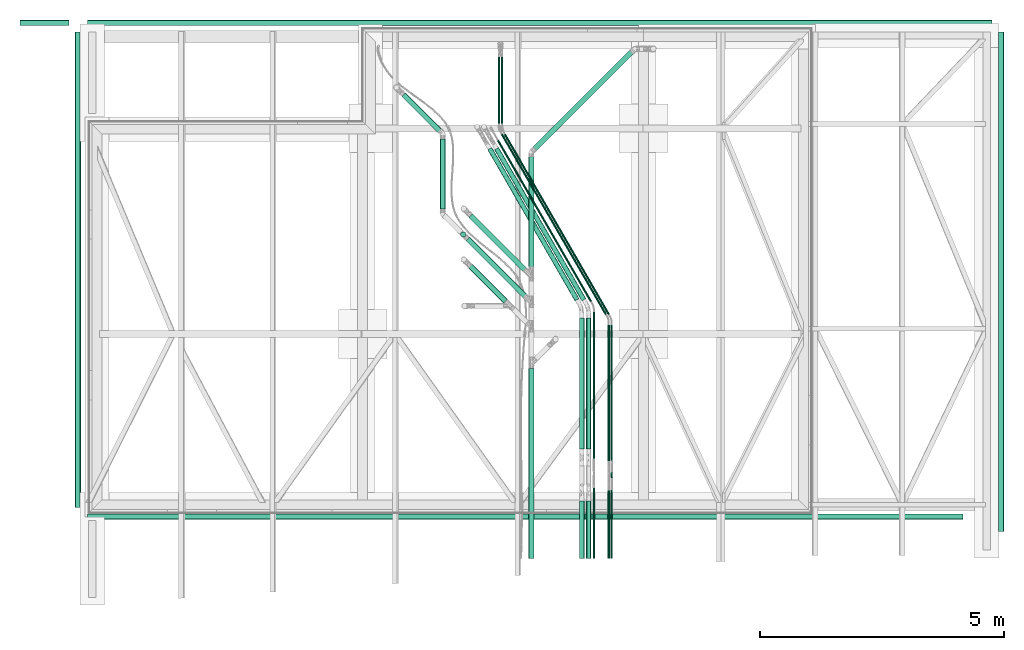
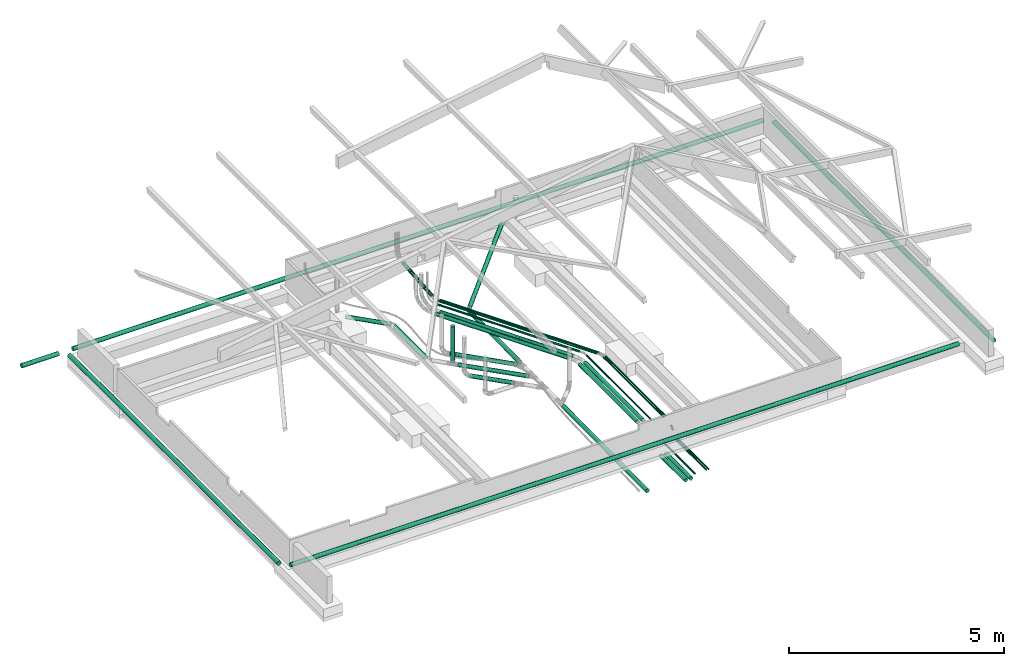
# One storey, part 5 of 18: 18 cable carrier segments, 14 pipe segments.
"""IFC4 building model written with IfcOpenShell, lengths in centimetres."""

from ifc_helpers import new_model, entity, si_unit, converted_unit, derived_unit, direction, frame, origin, place, context, subcontext, project, spatial, arc, indexed_curve, outline, extrude, type_object, element, save


model = new_model("IFC4")

# Units and contexts
model_context = context("Model", 3, precision=0.001, world=origin(), true_north=direction((6.123233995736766e-17, 1.0)))
body_context = subcontext(model_context, "Body", "Model", "MODEL_VIEW")
ifc_project = project(units=[si_unit("LENGTHUNIT", "METRE", prefix="CENTI"), si_unit("AREAUNIT", "SQUARE_METRE"), converted_unit("PLANEANGLEUNIT", "DEGREE", entity("IfcPlaneAngleMeasure", 0.017453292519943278), si_unit("PLANEANGLEUNIT", "RADIAN"), dimensions=[0, 0, 0, 0, 0, 0, 0]), si_unit("VOLUMEUNIT", "CUBIC_METRE"), derived_unit("THERMALTRANSMITTANCEUNIT", [(si_unit("MASSUNIT", "GRAM", prefix="KILO"), 1), (si_unit("THERMODYNAMICTEMPERATUREUNIT", "KELVIN"), -1), (si_unit("TIMEUNIT", "SECOND"), -3)])], contexts=[model_context])

# Site, building, storey
site_placement = place(None, frame((-0.003347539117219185, 0.0, 0.0)))
site = spatial("IfcSite", under=ifc_project, at=site_placement, Name="Default", CompositionType="ELEMENT")
building_placement = place(site_placement, origin())
building = spatial("IfcBuilding", under=site, at=building_placement, CompositionType="ELEMENT")
storey_placement = place(building_placement, frame((0.0, 0.0, -30.0)))
storey = spatial("IfcBuildingStorey", under=building, at=storey_placement, Name="Fondation B.O.", CompositionType="ELEMENT", Elevation=-30.0)

# Pipe segments
pipe_segment_type_1 = type_object("IfcPipeSegmentType", Name="Canalisation:Drain enrobé", PredefinedType="NOTDEFINED")
pipe_segment_1_placement = place(storey_placement, origin())
element("IfcPipeSegment", 1, at=pipe_segment_1_placement, inside=storey, type_object=pipe_segment_type_1, Name="Canalisation:Drain enrobé", ObjectType="Canalisation:Drain enrobé", PredefinedType="NOTDEFINED", context=body_context, shape_type="SweptSolid", body=[
    extrude(outline(indexed_curve([(5.715, -6.767919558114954e-15), (4.0411152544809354, 4.0411152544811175), (0.0, 5.715), (-4.0411152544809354, 4.041115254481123), (-5.715, 1.3535839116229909e-14), (-4.0411152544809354, -4.041115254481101), (0.0, -5.715), (4.0411152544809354, -4.041115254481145)], segments=[arc(1, 2, 3), arc(3, 4, 5), arc(5, 6, 7), arc(7, 8, 1)], self_intersect=False)), frame((-6817.586652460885, -2668.3758849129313, 11.499999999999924), z_axis=(0.0, 1.0, 0.0), x_axis=(-1.0, 0.0, 0.0)), (0.0, 0.0, 1.0), 975.0000000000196),
])
pipe_segment_2_placement = place(storey_placement, origin())
element("IfcPipeSegment", 2, at=pipe_segment_2_placement, inside=storey, type_object=pipe_segment_type_1, Name="Canalisation:Drain enrobé", ObjectType="Canalisation:Drain enrobé", PredefinedType="NOTDEFINED", context=body_context, shape_type="SweptSolid", body=[
    extrude(outline(indexed_curve([(5.715, -6.767919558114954e-15), (4.0411152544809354, 4.041115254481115), (0.0, 5.714999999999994), (-4.0411152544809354, 4.041115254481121), (-5.715, 1.3535839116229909e-14), (-4.0411152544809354, -4.041115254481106), (0.0, -5.715000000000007), (4.0411152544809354, -4.041115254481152)], segments=[arc(1, 2, 3), arc(3, 4, 5), arc(5, 6, 7), arc(7, 8, 1)], self_intersect=False)), frame((-6798.586652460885, -2687.375884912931, 11.50000000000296), z_axis=(1.0, 0.0, 0.0), x_axis=(0.0, -1.0, 0.0)), (0.0, 0.0, 1.0), 1796.5000000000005),
])
pipe_segment_3_placement = place(storey_placement, origin())
element("IfcPipeSegment", 3, at=pipe_segment_3_placement, inside=storey, type_object=pipe_segment_type_1, Name="Canalisation:Drain enrobé", ObjectType="Canalisation:Drain enrobé", PredefinedType="NOTDEFINED", context=body_context, shape_type="SweptSolid", body=[
    extrude(outline(indexed_curve([(5.715, -6.767919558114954e-15), (4.0411152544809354, 4.041115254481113), (0.0, 5.714999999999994), (-4.0411152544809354, 4.0411152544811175), (-5.715, 1.0151879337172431e-14), (-4.0411152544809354, -4.041115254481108), (0.0, -5.715000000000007), (4.0411152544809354, -4.041115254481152)], segments=[arc(1, 2, 3), arc(3, 4, 5), arc(5, 6, 7), arc(7, 8, 1)], self_intersect=False)), frame((-4924.086652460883, -2717.8758849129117, 11.50000000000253), z_axis=(0.0, 1.0, 0.0), x_axis=(-1.0, 0.0, 0.0)), (0.0, 0.0, 1.0), 1024.5),
])
pipe_segment_4_placement = place(storey_placement, origin())
element("IfcPipeSegment", 4, at=pipe_segment_4_placement, inside=storey, type_object=pipe_segment_type_1, Name="Canalisation:Drain enrobé", ObjectType="Canalisation:Drain enrobé", PredefinedType="NOTDEFINED", context=body_context, shape_type="SweptSolid", body=[
    extrude(outline(indexed_curve([(5.715, -3.383959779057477e-15), (4.041115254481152, 4.0411152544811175), (0.0, 5.714999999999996), (-4.041115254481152, 4.041115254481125), (-5.715, 1.6919798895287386e-14), (-4.041115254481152, -4.041115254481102), (0.0, -5.715000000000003), (4.041115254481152, -4.041115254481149)], segments=[arc(1, 2, 3), arc(3, 4, 5), arc(5, 6, 7), arc(7, 8, 1)], self_intersect=False)), frame((-6798.586652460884, -1674.3758849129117, 11.499999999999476), z_axis=(1.0, 0.0, 0.0), x_axis=(0.0, -1.0, 0.0)), (0.0, 0.0, 1.0), 1855.5000000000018),
])
pipe_segment_5_placement = place(storey_placement, origin())
element("IfcPipeSegment", 5, at=pipe_segment_5_placement, inside=storey, type_object=pipe_segment_type_1, Name="Canalisation:Drain enrobé", ObjectType="Canalisation:Drain enrobé", PredefinedType="NOTDEFINED", context=body_context, shape_type="SweptSolid", body=[
    extrude(outline(indexed_curve([(5.715, 6.767919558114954e-15), (4.041115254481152, 4.041115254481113), (0.0, 5.7149999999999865), (-4.041115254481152, 4.0411152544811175), (-5.715, 2.368771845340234e-14), (-4.041115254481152, -4.041115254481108), (0.0, -5.715000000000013), (4.041115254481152, -4.041115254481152)], segments=[arc(1, 2, 3), arc(3, 4, 5), arc(5, 6, 7), arc(7, 8, 1)], self_intersect=False)), frame((-6936.586652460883, -1674.3758849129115, 11.499999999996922), z_axis=(1.0, 0.0, 0.0), x_axis=(0.0, 1.0, 0.0)), (0.0, 0.0, 1.0), 99.99999999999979),
])
pipe_segment_type_2 = type_object("IfcPipeSegmentType", Name="Canalisation:Valsir PP3", PredefinedType="NOTDEFINED")
pipe_segment_6_placement = place(storey_placement, origin())
element("IfcPipeSegment", 6, at=pipe_segment_6_placement, inside=storey, type_object=pipe_segment_type_2, Name="Canalisation:Valsir PP3", ObjectType="Canalisation:Valsir PP3", PredefinedType="NOTDEFINED", context=body_context, shape_type="SweptSolid", body=[
    extrude(outline(indexed_curve([(5.500000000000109, 4.331468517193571e-13), (3.8890872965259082, 3.8890872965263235), (0.0, 5.500000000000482), (-3.8890872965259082, 3.8890872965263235), (-5.500000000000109, 4.331468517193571e-13), (-3.8890872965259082, -3.8890872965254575), (0.0, -5.499999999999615), (3.8890872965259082, -3.8890872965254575)], segments=[arc(1, 2, 3), arc(3, 4, 5), arc(5, 6, 7), arc(7, 8, 1)], self_intersect=False)), frame((-6027.427492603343, -2108.547729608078, -31.82662814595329), z_axis=(6.855352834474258e-05, 0.0, 0.9999999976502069), x_axis=(-0.9999999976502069, 0.0, 6.855352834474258e-05)), (0.0, 0.0, 1.0), 101.82662838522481),
])
pipe_segment_7_placement = place(storey_placement, origin())
element("IfcPipeSegment", 7, at=pipe_segment_7_placement, inside=storey, type_object=pipe_segment_type_2, Name="Canalisation:Valsir PP3", ObjectType="Canalisation:Valsir PP3", PredefinedType="NOTDEFINED", context=body_context, shape_type="SweptSolid", body=[
    extrude(outline(indexed_curve([(5.499999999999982, -1.2717406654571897e-13), (3.8890872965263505, 3.8890872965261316), (-3.084388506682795e-13, 5.499999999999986), (-3.889087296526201, 3.8890872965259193), (-5.499999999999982, 1.0039039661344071e-13), (-3.8890872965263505, -3.8890872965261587), (4.615630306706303e-13, -5.500000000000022), (3.889087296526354, -3.889087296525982)], segments=[arc(1, 2, 3), arc(3, 4, 5), arc(5, 6, 7), arc(7, 8, 1)], self_intersect=False)), frame((-5880.576963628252, -1932.789626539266, -35.166907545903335), z_axis=(0.6995840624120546, 0.699584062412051, 0.1454794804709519), x_axis=(-0.7071067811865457, 0.7071067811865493, 0.0)), (0.0, 0.0, 1.0), 289.3452150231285),
])
pipe_segment_8_placement = place(storey_placement, origin())
element("IfcPipeSegment", 8, at=pipe_segment_8_placement, inside=storey, type_object=pipe_segment_type_2, Name="Canalisation:Valsir PP3", ObjectType="Canalisation:Valsir PP3", PredefinedType="NOTDEFINED", context=body_context, shape_type="SweptSolid", body=[
    extrude(outline(indexed_curve([(5.499999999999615, -1.3535162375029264e-14), (3.8890872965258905, 3.8890872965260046), (0.0, 5.499999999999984), (-3.8890872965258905, 3.8890872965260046), (-5.499999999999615, 0.0), (-3.8890872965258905, -3.8890872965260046), (0.0, -5.500000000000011), (3.8890872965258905, -3.889087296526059)], segments=[arc(1, 2, 3), arc(3, 4, 5), arc(5, 6, 7), arc(7, 8, 1)], self_intersect=False)), frame((-5887.812062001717, -2180.7279488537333, -39.07848857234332), z_axis=(0.0, 0.9999500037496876, 0.009999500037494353), x_axis=(-1.0, 0.0, 0.0)), (0.0, 0.0, 1.0), 237.1577175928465),
])
pipe_segment_9_placement = place(storey_placement, origin())
element("IfcPipeSegment", 9, at=pipe_segment_9_placement, inside=storey, type_object=pipe_segment_type_2, Name="Canalisation:Valsir PP3", ObjectType="Canalisation:Valsir PP3", PredefinedType="NOTDEFINED", context=body_context, shape_type="SweptSolid", body=[
    extrude(outline(indexed_curve([(5.499999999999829, -1.167116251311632e-14), (3.8890872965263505, 3.8890872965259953), (-1.8638215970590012e-15, 5.499999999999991), (-3.8890872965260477, 3.889087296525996), (-5.499999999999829, -1.8638215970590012e-15), (-3.8890872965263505, -3.889087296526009), (1.8638215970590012e-15, -5.500000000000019), (3.8890872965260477, -3.8890872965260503)], segments=[arc(1, 2, 3), arc(3, 4, 5), arc(5, 6, 7), arc(7, 8, 1)], self_intersect=False)), frame((-5897.287182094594, -2184.652242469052, -39.10641787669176), z_axis=(-0.707062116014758, 0.7070621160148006, 0.011239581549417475), x_axis=(-0.7071067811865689, -0.7071067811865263, 0.0)), (0.0, 0.0, 1.0), 162.4881901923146),
])
pipe_segment_10_placement = place(storey_placement, origin())
element("IfcPipeSegment", 10, at=pipe_segment_10_placement, inside=storey, type_object=pipe_segment_type_2, Name="Canalisation:Valsir PP3", ObjectType="Canalisation:Valsir PP3", PredefinedType="NOTDEFINED", context=body_context, shape_type="SweptSolid", body=[
    extrude(outline(indexed_curve([(5.5000000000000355, 1.3516011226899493e-15), (3.889087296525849, 3.88908729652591), (2.799448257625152e-13, 5.500000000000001), (-3.889087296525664, 3.8890872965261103), (-5.5000000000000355, 1.2183561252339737e-14), (-3.889087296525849, -3.8890872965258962), (-2.799448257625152e-13, -5.500000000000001), (3.889087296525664, -3.8890872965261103)], segments=[arc(1, 2, 3), arc(3, 4, 5), arc(5, 6, 7), arc(7, 8, 1)], self_intersect=False)), frame((-5897.287056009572, -2238.681447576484, -39.618775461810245), z_axis=(-0.7070891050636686, 0.7070537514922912, 0.009999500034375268), x_axis=(0.7070891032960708, 0.7071244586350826, 0.0)), (0.0, 0.0, 1.0), 171.107338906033),
])
pipe_segment_11_placement = place(storey_placement, origin())
element("IfcPipeSegment", 11, at=pipe_segment_11_placement, inside=storey, type_object=pipe_segment_type_2, Name="Canalisation:Valsir PP3", ObjectType="Canalisation:Valsir PP3", PredefinedType="NOTDEFINED", context=body_context, shape_type="SweptSolid", body=[
    extrude(outline(indexed_curve([(5.499999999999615, -1.3535678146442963e-14), (3.8890872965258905, 3.8890872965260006), (0.0, 5.499999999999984), (-3.8890872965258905, 3.8890872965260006), (-5.499999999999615, 1.3535678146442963e-14), (-3.8890872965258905, -3.8890872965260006), (0.0, -5.500000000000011), (3.8890872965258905, -3.889087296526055)], segments=[arc(1, 2, 3), arc(3, 4, 5), arc(5, 6, 7), arc(7, 8, 1)], self_intersect=False)), frame((-6069.454721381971, -2056.180513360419, -37.13358102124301), z_axis=(0.0, 0.9999881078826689, 0.004876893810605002), x_axis=(1.0, 0.0, 0.0)), (0.0, 0.0, 1.0), 143.95603519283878),
])
pipe_segment_12_placement = place(storey_placement, origin())
element("IfcPipeSegment", 12, at=pipe_segment_12_placement, inside=storey, type_object=pipe_segment_type_2, Name="Canalisation:Valsir PP3", ObjectType="Canalisation:Valsir PP3", PredefinedType="NOTDEFINED", context=body_context, shape_type="SweptSolid", body=[
    extrude(outline(indexed_curve([(5.500000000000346, -2.7426737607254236e-14), (3.889087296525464, 3.889087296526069), (-1.8311055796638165e-13, 5.500000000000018), (-3.889087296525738, 3.8890872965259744), (-5.500000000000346, 2.7426737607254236e-14), (-3.889087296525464, -3.889087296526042), (1.8311055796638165e-13, -5.499999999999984), (3.8890872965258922, -3.889087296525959)], segments=[arc(1, 2, 3), arc(3, 4, 5), arc(5, 6, 7), arc(7, 8, 1)], self_intersect=False)), frame((-6071.948743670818, -1899.3902908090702, -36.34581508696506), z_axis=(-0.7070590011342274, 0.7070583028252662, 0.011667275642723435), x_axis=(-0.707106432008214, -0.7071071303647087, 0.0)), (0.0, 0.0, 1.0), 110.29473793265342),
])
pipe_segment_13_placement = place(storey_placement, origin())
element("IfcPipeSegment", 13, at=pipe_segment_13_placement, inside=storey, type_object=pipe_segment_type_2, Name="Canalisation:Valsir PP3", ObjectType="Canalisation:Valsir PP3", PredefinedType="NOTDEFINED", context=body_context, shape_type="SweptSolid", body=[
    extrude(outline(indexed_curve([(5.4999999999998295, -2.785022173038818e-14), (3.8890872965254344, 3.8890872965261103), (-3.0550627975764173e-13, 5.50000000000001), (-3.8890872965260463, 3.889087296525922), (-5.4999999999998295, 2.785022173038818e-14), (-3.8890872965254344, -3.889087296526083), (3.0550627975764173e-13, -5.499999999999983), (3.8890872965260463, -3.8890872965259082)], segments=[arc(1, 2, 3), arc(3, 4, 5), arc(5, 6, 7), arc(7, 8, 1)], self_intersect=False)), frame((-6017.000779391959, -2169.3603510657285, -38.42806859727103), z_axis=(0.7070714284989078, -0.7070714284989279, -0.009999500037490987), x_axis=(0.7071067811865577, 0.7071067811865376, 0.0)), (0.0, 0.0, 1.0), 107.78388609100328),
])
pipe_segment_14_placement = place(storey_placement, origin())
element("IfcPipeSegment", 14, at=pipe_segment_14_placement, inside=storey, type_object=pipe_segment_type_2, Name="Canalisation:Valsir PP3", ObjectType="Canalisation:Valsir PP3", PredefinedType="NOTDEFINED", context=body_context, shape_type="SweptSolid", body=[
    extrude(outline(indexed_curve([(5.499999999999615, 1.552679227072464e-15), (3.8890872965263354, 3.889087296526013), (2.590386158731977e-15, 5.500000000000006), (-3.889087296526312, 3.889087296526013), (-5.499999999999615, 1.1982482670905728e-14), (-3.8890872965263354, -3.8890872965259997), (-2.590386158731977e-15, -5.500000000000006), (3.889087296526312, -3.88908729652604)], segments=[arc(1, 2, 3), arc(3, 4, 5), arc(5, 6, 7), arc(7, 8, 1)], self_intersect=False)), frame((-5887.812062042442, -2772.875884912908, -44.999977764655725), z_axis=(1.4595795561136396e-08, 0.9999499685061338, 0.010003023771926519), x_axis=(-1.0, 1.4596525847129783e-08, 0.0)), (0.0, 0.0, 1.0), 389.8356681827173),
])

# Cable carrier segments
cable_carrier_segment_type = type_object("IfcCableCarrierSegmentType", Name="Conduit sans raccords:TPC", PredefinedType="CONDUITSEGMENT")
cable_carrier_segment_1_placement = place(storey_placement, origin())
element("IfcCableCarrierSegment", 15, at=cable_carrier_segment_1_placement, inside=storey, type_object=cable_carrier_segment_type, Name="Conduit sans raccords:TPC", ObjectType="Conduit sans raccords:TPC", PredefinedType="CONDUITSEGMENT", context=body_context, shape_type="SweptSolid", body=[
    extrude(outline(indexed_curve([(2.2100000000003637, 2.0220195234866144e-14), (1.5627059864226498, 1.562705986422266), (0.0, 2.2100000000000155), (-1.5627059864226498, 1.5627059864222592), (-2.2100000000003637, 1.3480130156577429e-14), (-1.5627059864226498, -1.562705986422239), (0.0, -2.210000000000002), (1.5627059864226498, -1.562705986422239)], segments=[arc(1, 2, 3), arc(3, 4, 5), arc(5, 6, 7), arc(7, 8, 1)], self_intersect=False)), frame((-5948.09944586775, -1881.237898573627, -9.940852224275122), z_axis=(0.0, 0.995884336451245, 0.09063326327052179), x_axis=(1.0, 0.0, 0.0)), (0.0, 0.0, 1.0), 138.3060079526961),
])
cable_carrier_segment_2_placement = place(storey_placement, origin())
element("IfcCableCarrierSegment", 16, at=cable_carrier_segment_2_placement, inside=storey, type_object=cable_carrier_segment_type, Name="Conduit sans raccords:TPC", ObjectType="Conduit sans raccords:TPC", PredefinedType="CONDUITSEGMENT", context=body_context, shape_type="SweptSolid", body=[
    extrude(outline(indexed_curve([(2.2099999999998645, 0.0), (1.56270598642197, 1.5627059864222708), (0.0, 2.209999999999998), (-1.5627059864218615, 1.5627059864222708), (-2.2099999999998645, 6.767919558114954e-15), (-1.5627059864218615, -1.562705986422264), (0.0, -2.209999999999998), (1.56270598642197, -1.5627059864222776)], segments=[arc(1, 2, 3), arc(3, 4, 5), arc(5, 6, 7), arc(7, 8, 1)], self_intersect=False)), frame((-5942.256404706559, -1902.9963290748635, -11.0), z_axis=(0.5000000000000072, -0.8660254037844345, 0.0), x_axis=(-0.8660254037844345, -0.5000000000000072, 0.0)), (0.0, 0.0, 1.0), 426.7158746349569),
])
cable_carrier_segment_3_placement = place(storey_placement, origin())
element("IfcCableCarrierSegment", 17, at=cable_carrier_segment_3_placement, inside=storey, type_object=cable_carrier_segment_type, Name="Conduit sans raccords:TPC", ObjectType="Conduit sans raccords:TPC", PredefinedType="CONDUITSEGMENT", context=body_context, shape_type="SweptSolid", body=[
    extrude(outline(indexed_curve([(2.2100000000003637, 2.0303758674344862e-14), (1.5627059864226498, 1.562705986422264), (0.0, 2.209999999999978), (-1.5627059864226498, 1.562705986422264), (-2.2100000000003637, 2.7071678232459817e-14), (-1.5627059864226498, -1.5627059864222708), (0.0, -2.2100000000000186), (1.5627059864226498, -1.5627059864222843)], segments=[arc(1, 2, 3), arc(3, 4, 5), arc(5, 6, 7), arc(7, 8, 1)], self_intersect=False)), frame((-5723.099445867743, -2572.2010795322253, -11.0), z_axis=(0.0, 1.0, 0.0), x_axis=(-1.0, 0.0, 0.0)), (0.0, 0.0, 1.0), 278.01571987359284),
])
cable_carrier_segment_4_placement = place(storey_placement, origin())
element("IfcCableCarrierSegment", 18, at=cable_carrier_segment_4_placement, inside=storey, type_object=cable_carrier_segment_type, Name="Conduit sans raccords:TPC", ObjectType="Conduit sans raccords:TPC", PredefinedType="CONDUITSEGMENT", context=body_context, shape_type="SweptSolid", body=[
    extrude(outline(indexed_curve([(2.2100000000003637, 0.0), (1.5627059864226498, 1.562705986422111), (0.0, 2.209999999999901), (-1.5627059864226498, 1.5627059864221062), (-2.2100000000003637, 0.0), (-1.5627059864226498, -1.5627059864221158), (0.0, -2.209999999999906), (1.5627059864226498, -1.5627059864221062)], segments=[arc(1, 2, 3), arc(3, 4, 5), arc(5, 6, 7), arc(7, 8, 1)], self_intersect=False)), frame((-5723.099445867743, -2606.5933107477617, -30.40597404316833), z_axis=(0.0, 0.7071067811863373, 0.7071067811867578), x_axis=(-1.0, 0.0, 0.0)), (0.0, 0.0, 1.0), 12.457934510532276),
])
cable_carrier_segment_5_placement = place(storey_placement, origin())
element("IfcCableCarrierSegment", 19, at=cable_carrier_segment_5_placement, inside=storey, type_object=cable_carrier_segment_type, Name="Conduit sans raccords:TPC", ObjectType="Conduit sans raccords:TPC", PredefinedType="CONDUITSEGMENT", context=body_context, shape_type="SweptSolid", body=[
    extrude(outline(indexed_curve([(2.2100000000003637, -1.3535839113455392e-14), (1.5627059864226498, 1.5627059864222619), (0.0, 2.2099999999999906), (-1.5627059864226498, 1.5627059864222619), (-2.2100000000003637, 0.0), (-1.5627059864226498, -1.5627059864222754), (0.0, -2.2100000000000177), (1.5627059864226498, -1.5627059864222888)], segments=[arc(1, 2, 3), arc(3, 4, 5), arc(5, 6, 7), arc(7, 8, 1)], self_intersect=False)), frame((-5723.099445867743, -2772.875884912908, -40.99990018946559), z_axis=(0.0, 1.0, -2.024725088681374e-05), x_axis=(-1.0, 0.0, 0.0)), (0.0, 0.0, 1.0), 140.69896392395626),
])
cable_carrier_segment_6_placement = place(storey_placement, origin())
element("IfcCableCarrierSegment", 20, at=cable_carrier_segment_6_placement, inside=storey, type_object=cable_carrier_segment_type, Name="Conduit sans raccords:TPC", ObjectType="Conduit sans raccords:TPC", PredefinedType="CONDUITSEGMENT", context=body_context, shape_type="SweptSolid", body=[
    extrude(outline(indexed_curve([(2.2100000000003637, 2.0220195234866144e-14), (1.5627059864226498, 1.562705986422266), (0.0, 2.2100000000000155), (-1.5627059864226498, 1.5627059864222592), (-2.2100000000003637, 1.3480130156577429e-14), (-1.5627059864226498, -1.562705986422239), (0.0, -2.210000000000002), (1.5627059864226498, -1.562705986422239)], segments=[arc(1, 2, 3), arc(3, 4, 5), arc(5, 6, 7), arc(7, 8, 1)], self_intersect=False)), frame((-5954.09944586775, -1881.237898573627, -9.940852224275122), z_axis=(0.0, 0.995884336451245, 0.09063326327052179), x_axis=(1.0, 0.0, 0.0)), (0.0, 0.0, 1.0), 138.3060079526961),
])
cable_carrier_segment_7_placement = place(storey_placement, origin())
element("IfcCableCarrierSegment", 21, at=cable_carrier_segment_7_placement, inside=storey, type_object=cable_carrier_segment_type, Name="Conduit sans raccords:TPC", ObjectType="Conduit sans raccords:TPC", PredefinedType="CONDUITSEGMENT", context=body_context, shape_type="SweptSolid", body=[
    extrude(outline(indexed_curve([(2.2099999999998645, 0.0), (1.56270598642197, 1.5627059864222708), (0.0, 2.209999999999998), (-1.5627059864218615, 1.5627059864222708), (-2.2099999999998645, 6.767919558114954e-15), (-1.5627059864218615, -1.562705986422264), (0.0, -2.209999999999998), (1.56270598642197, -1.5627059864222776)], segments=[arc(1, 2, 3), arc(3, 4, 5), arc(5, 6, 7), arc(7, 8, 1)], self_intersect=False)), frame((-5948.25640470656, -1902.9963290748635, -11.0), z_axis=(0.5000000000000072, -0.8660254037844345, 0.0), x_axis=(-0.8660254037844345, -0.5000000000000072, 0.0)), (0.0, 0.0, 1.0), 426.7158746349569),
])
cable_carrier_segment_8_placement = place(storey_placement, origin())
element("IfcCableCarrierSegment", 22, at=cable_carrier_segment_8_placement, inside=storey, type_object=cable_carrier_segment_type, Name="Conduit sans raccords:TPC", ObjectType="Conduit sans raccords:TPC", PredefinedType="CONDUITSEGMENT", context=body_context, shape_type="SweptSolid", body=[
    extrude(outline(indexed_curve([(2.2100000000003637, 2.0303758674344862e-14), (1.5627059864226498, 1.562705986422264), (0.0, 2.209999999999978), (-1.5627059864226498, 1.562705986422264), (-2.2100000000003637, 2.7071678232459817e-14), (-1.5627059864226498, -1.5627059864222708), (0.0, -2.2100000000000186), (1.5627059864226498, -1.5627059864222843)], segments=[arc(1, 2, 3), arc(3, 4, 5), arc(5, 6, 7), arc(7, 8, 1)], self_intersect=False)), frame((-5729.099445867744, -2573.201079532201, -11.0), z_axis=(0.0, 1.0, 0.0), x_axis=(-1.0, 0.0, 0.0)), (0.0, 0.0, 1.0), 279.01571987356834),
])
cable_carrier_segment_9_placement = place(storey_placement, origin())
element("IfcCableCarrierSegment", 23, at=cable_carrier_segment_9_placement, inside=storey, type_object=cable_carrier_segment_type, Name="Conduit sans raccords:TPC", ObjectType="Conduit sans raccords:TPC", PredefinedType="CONDUITSEGMENT", context=body_context, shape_type="SweptSolid", body=[
    extrude(outline(indexed_curve([(2.2100000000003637, -1.3535839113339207e-14), (1.5627059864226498, 1.5627059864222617), (0.0, 2.209999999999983), (-1.5627059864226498, 1.5627059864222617), (-2.2100000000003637, 0.0), (-1.5627059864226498, -1.5627059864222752), (0.0, -2.21000000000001), (1.5627059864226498, -1.5627059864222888)], segments=[arc(1, 2, 3), arc(3, 4, 5), arc(5, 6, 7), arc(7, 8, 1)], self_intersect=False)), frame((-5729.099445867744, -2772.875884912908, -40.99989812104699), z_axis=(0.0, 1.0, -2.066684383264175e-05), x_axis=(-1.0, 0.0, 0.0)), (0.0, 0.0, 1.0), 139.69891564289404),
])
cable_carrier_segment_10_placement = place(storey_placement, origin())
element("IfcCableCarrierSegment", 24, at=cable_carrier_segment_10_placement, inside=storey, type_object=cable_carrier_segment_type, Name="Conduit sans raccords:TPC", ObjectType="Conduit sans raccords:TPC", PredefinedType="CONDUITSEGMENT", context=body_context, shape_type="SweptSolid", body=[
    extrude(outline(indexed_curve([(2.2099999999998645, -4.907648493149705e-17), (1.5627059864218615, 1.5627059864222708), (4.907648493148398e-17, 2.209999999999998), (-1.5627059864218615, 1.5627059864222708), (-2.2099999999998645, 6.816996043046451e-15), (-1.5627059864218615, -1.562705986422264), (-4.907648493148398e-17, -2.209999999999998), (1.5627059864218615, -1.5627059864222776)], segments=[arc(1, 2, 3), arc(3, 4, 5), arc(5, 6, 7), arc(7, 8, 1)], self_intersect=False)), frame((-5956.307049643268, -1915.5094836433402, -11.0), z_axis=(0.5000000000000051, -0.8660254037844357, 0.0), x_axis=(-0.8660254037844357, -0.5000000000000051, 0.0)), (0.0, 0.0, 1.0), 381.8459569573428),
])
cable_carrier_segment_11_placement = place(storey_placement, origin())
element("IfcCableCarrierSegment", 25, at=cable_carrier_segment_11_placement, inside=storey, type_object=cable_carrier_segment_type, Name="Conduit sans raccords:TPC", ObjectType="Conduit sans raccords:TPC", PredefinedType="CONDUITSEGMENT", context=body_context, shape_type="SweptSolid", body=[
    extrude(outline(indexed_curve([(2.2100000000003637, 2.7071678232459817e-14), (1.5627059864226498, 1.5627059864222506), (0.0, 2.2099999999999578), (-1.5627059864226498, 1.5627059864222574), (-2.2100000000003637, 3.383959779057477e-14), (-1.5627059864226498, -1.5627059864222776), (0.0, -2.210000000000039), (1.5627059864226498, -1.5627059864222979)], segments=[arc(1, 2, 3), arc(3, 4, 5), arc(5, 6, 7), arc(7, 8, 1)], self_intersect=False)), frame((-5759.585049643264, -2568.2557254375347, -11.0), z_axis=(0.0, 1.0, 0.0), x_axis=(-1.0, 0.0, 0.0)), (0.0, 0.0, 1.0), 300.415699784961),
])
cable_carrier_segment_12_placement = place(storey_placement, origin())
element("IfcCableCarrierSegment", 26, at=cable_carrier_segment_12_placement, inside=storey, type_object=cable_carrier_segment_type, Name="Conduit sans raccords:TPC", ObjectType="Conduit sans raccords:TPC", PredefinedType="CONDUITSEGMENT", context=body_context, shape_type="SweptSolid", body=[
    extrude(outline(indexed_curve([(2.2099999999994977, 3.3568881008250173e-12), (1.5627059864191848, 1.5627059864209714), (0.0, 2.209999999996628), (-1.562705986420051, 1.5627059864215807), (-2.21000000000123, 3.3704239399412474e-12), (-1.5627059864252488, -1.5627059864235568), (0.0, -2.210000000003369), (1.5627059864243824, -1.562705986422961)], segments=[arc(1, 2, 3), arc(3, 4, 5), arc(5, 6, 7), arc(7, 8, 1)], self_intersect=False)), frame((-5759.585049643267, -2772.875884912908, -41.0), z_axis=(0.0, 1.0, 0.0), x_axis=(-1.0, 0.0, 0.0)), (0.0, 0.0, 1.0), 144.64764513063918),
])
cable_carrier_segment_13_placement = place(storey_placement, origin())
element("IfcCableCarrierSegment", 27, at=cable_carrier_segment_13_placement, inside=storey, type_object=cable_carrier_segment_type, Name="Conduit sans raccords:TPC", ObjectType="Conduit sans raccords:TPC", PredefinedType="CONDUITSEGMENT", context=body_context, shape_type="SweptSolid", body=[
    extrude(outline(indexed_curve([(5.080000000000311, -6.767919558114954e-15), (3.592102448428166, 3.592102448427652), (0.0, 5.079999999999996), (-3.592102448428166, 3.5921024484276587), (-5.080000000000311, 6.767919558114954e-15), (-3.592102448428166, -3.592102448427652), (0.0, -5.080000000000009), (3.5921024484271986, -3.592102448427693)], segments=[arc(1, 2, 3), arc(3, 4, 5), arc(5, 6, 7), arc(7, 8, 1)], self_intersect=False)), frame((-5780.158025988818, -2242.443307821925, -21.0), z_axis=(-0.5000000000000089, 0.8660254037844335, 0.0), x_axis=(-0.8660254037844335, -0.5000000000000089, 0.0)), (0.0, 0.0, 1.0), 357.8942333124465),
])
cable_carrier_segment_14_placement = place(storey_placement, origin())
element("IfcCableCarrierSegment", 28, at=cable_carrier_segment_14_placement, inside=storey, type_object=cable_carrier_segment_type, Name="Conduit sans raccords:TPC", ObjectType="Conduit sans raccords:TPC", PredefinedType="CONDUITSEGMENT", context=body_context, shape_type="SweptSolid", body=[
    extrude(outline(indexed_curve([(5.079999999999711, 0.0), (3.5921024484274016, 3.592102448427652), (0.0, 5.0799999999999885), (-3.5921024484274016, 3.5921024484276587), (-5.079999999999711, 1.3535839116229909e-14), (-3.5921024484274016, -3.592102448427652), (0.0, -5.080000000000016), (3.5921024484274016, -3.592102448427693)], segments=[arc(1, 2, 3), arc(3, 4, 5), arc(5, 6, 7), arc(7, 8, 1)], self_intersect=False)), frame((-5770.152502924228, -2548.671913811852, -21.0), z_axis=(0.0, 1.0, 0.0), x_axis=(-1.0, 0.0, 0.0)), (0.0, 0.0, 1.0), 268.88748555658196),
])
cable_carrier_segment_15_placement = place(storey_placement, origin())
element("IfcCableCarrierSegment", 29, at=cable_carrier_segment_15_placement, inside=storey, type_object=cable_carrier_segment_type, Name="Conduit sans raccords:TPC", ObjectType="Conduit sans raccords:TPC", PredefinedType="CONDUITSEGMENT", context=body_context, shape_type="SweptSolid", body=[
    extrude(outline(indexed_curve([(5.079999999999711, 2.1115909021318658e-12), (3.5921024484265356, 3.59210244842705), (0.0, 5.0799999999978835), (-3.5921024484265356, 3.59210244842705), (-5.079999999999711, 2.1251267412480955e-12), (-3.5921024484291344, -3.592102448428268), (0.0, -5.080000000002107), (3.5921024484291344, -3.592102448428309)], segments=[arc(1, 2, 3), arc(3, 4, 5), arc(5, 6, 7), arc(7, 8, 1)], self_intersect=False)), frame((-5770.152502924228, -2772.875884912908, -51.0), z_axis=(0.0, 1.0, 0.0), x_axis=(-1.0, 0.0, 0.0)), (0.0, 0.0, 1.0), 117.71749218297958),
])
cable_carrier_segment_16_placement = place(storey_placement, origin())
element("IfcCableCarrierSegment", 30, at=cable_carrier_segment_16_placement, inside=storey, type_object=cable_carrier_segment_type, Name="Conduit sans raccords:TPC", ObjectType="Conduit sans raccords:TPC", PredefinedType="CONDUITSEGMENT", context=body_context, shape_type="SweptSolid", body=[
    extrude(outline(indexed_curve([(5.079999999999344, -6.767919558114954e-15), (3.5921024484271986, 3.592102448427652), (-9.66805780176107e-13, 5.079999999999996), (-3.592102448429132, 3.5921024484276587), (-5.0800000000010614, 6.767919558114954e-15), (-3.592102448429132, -3.592102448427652), (-9.66805780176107e-13, -5.080000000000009), (3.5921024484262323, -3.592102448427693)], segments=[arc(1, 2, 3), arc(3, 4, 5), arc(5, 6, 7), arc(7, 8, 1)], self_intersect=False)), frame((-5794.158025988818, -2242.443307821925, -21.0), z_axis=(-0.5000000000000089, 0.8660254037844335, 0.0), x_axis=(-0.8660254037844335, -0.5000000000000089, 0.0)), (0.0, 0.0, 1.0), 357.8942333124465),
])
cable_carrier_segment_17_placement = place(storey_placement, origin())
element("IfcCableCarrierSegment", 31, at=cable_carrier_segment_17_placement, inside=storey, type_object=cable_carrier_segment_type, Name="Conduit sans raccords:TPC", ObjectType="Conduit sans raccords:TPC", PredefinedType="CONDUITSEGMENT", context=body_context, shape_type="SweptSolid", body=[
    extrude(outline(indexed_curve([(5.079999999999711, 0.0), (3.5921024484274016, 3.592102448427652), (0.0, 5.0799999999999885), (-3.5921024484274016, 3.5921024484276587), (-5.079999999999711, 1.3535839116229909e-14), (-3.5921024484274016, -3.592102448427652), (0.0, -5.080000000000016), (3.5921024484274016, -3.592102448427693)], segments=[arc(1, 2, 3), arc(3, 4, 5), arc(5, 6, 7), arc(7, 8, 1)], self_intersect=False)), frame((-5784.152502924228, -2548.671913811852, -21.0), z_axis=(0.0, 1.0, 0.0), x_axis=(-1.0, 0.0, 0.0)), (0.0, 0.0, 1.0), 268.88748555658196),
])
cable_carrier_segment_18_placement = place(storey_placement, origin())
element("IfcCableCarrierSegment", 32, at=cable_carrier_segment_18_placement, inside=storey, type_object=cable_carrier_segment_type, Name="Conduit sans raccords:TPC", ObjectType="Conduit sans raccords:TPC", PredefinedType="CONDUITSEGMENT", context=body_context, shape_type="SweptSolid", body=[
    extrude(outline(indexed_curve([(5.079999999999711, 2.341700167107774e-12), (3.592102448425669, 3.5921024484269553), (0.0, 5.079999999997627), (-3.592102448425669, 3.5921024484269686), (-5.079999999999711, 2.3552360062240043e-12), (-3.5921024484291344, -3.5921024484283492), (0.0, -5.080000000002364), (3.5921024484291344, -3.5921024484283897)], segments=[arc(1, 2, 3), arc(3, 4, 5), arc(5, 6, 7), arc(7, 8, 1)], self_intersect=False)), frame((-5784.152502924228, -2772.875884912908, -50.99997905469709), z_axis=(0.0, 1.0, 0.0), x_axis=(-1.0, 0.0, 0.0)), (0.0, 0.0, 1.0), 117.7175427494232),
])

save(model, "model.ifc")
